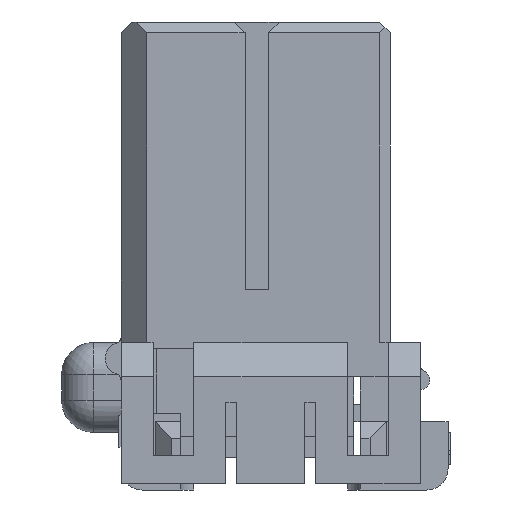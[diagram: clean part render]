
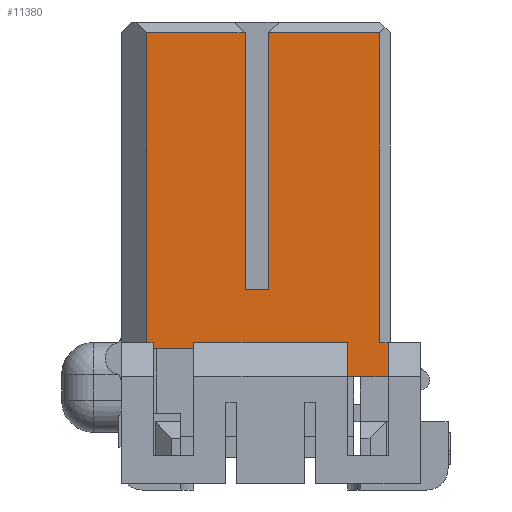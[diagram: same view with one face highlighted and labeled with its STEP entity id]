
A CAD part, left-side view. The second image highlights one B-rep face of the part: STEP entity #11380.
In plain terms, the highlighted planar face has unit normal (-1, 0, 0).
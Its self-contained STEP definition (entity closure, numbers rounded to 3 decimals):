
#2042=DIRECTION('',(0.,-1.,0.));
#2043=VECTOR('',#2042,4.6);
#2044=CARTESIAN_POINT('',(-11.25,5.1,-0.5));
#2045=LINE('',#2044,#2043);
#2046=DIRECTION('',(0.,0.,-1.));
#2047=VECTOR('',#2046,12.);
#2048=CARTESIAN_POINT('',(-11.25,0.5,-0.5));
#2049=LINE('',#2048,#2047);
#2050=DIRECTION('',(0.,-1.,0.));
#2051=VECTOR('',#2050,1.1);
#2052=CARTESIAN_POINT('',(-11.25,0.5,-12.5));
#2053=LINE('',#2052,#2051);
#2054=DIRECTION('',(0.,0.,-1.));
#2055=VECTOR('',#2054,12.);
#2056=CARTESIAN_POINT('',(-11.25,-0.6,-0.5));
#2057=LINE('',#2056,#2055);
#2058=DIRECTION('',(0.,-1.,0.));
#2059=VECTOR('',#2058,5.2);
#2060=CARTESIAN_POINT('',(-11.25,-0.6,-0.5));
#2061=LINE('',#2060,#2059);
#2062=DIRECTION('',(0.,0.,-1.));
#2063=VECTOR('',#2062,14.5);
#2064=CARTESIAN_POINT('',(-11.25,-5.8,-0.5));
#2065=LINE('',#2064,#2063);
#2066=DIRECTION('',(0.,-1.,0.));
#2067=VECTOR('',#2066,0.4);
#2068=CARTESIAN_POINT('',(-11.25,-5.8,-15.));
#2069=LINE('',#2068,#2067);
#2070=DIRECTION('',(0.,0.,1.));
#2071=VECTOR('',#2070,1.6);
#2072=CARTESIAN_POINT('',(-11.25,-6.2,-16.6));
#2073=LINE('',#2072,#2071);
#2074=DIRECTION('',(0.,0.,-1.));
#2075=VECTOR('',#2074,1.6);
#2076=CARTESIAN_POINT('',(-11.25,-4.3,-15.));
#2077=LINE('',#2076,#2075);
#2078=DIRECTION('',(0.,1.,0.));
#2079=VECTOR('',#2078,7.2);
#2080=CARTESIAN_POINT('',(-11.25,-4.3,-15.));
#2081=LINE('',#2080,#2079);
#2082=DIRECTION('',(0.,0.,1.));
#2083=VECTOR('',#2082,0.3);
#2084=CARTESIAN_POINT('',(-11.25,2.9,-15.3));
#2085=LINE('',#2084,#2083);
#2086=DIRECTION('',(0.,0.,-1.));
#2087=VECTOR('',#2086,0.3);
#2088=CARTESIAN_POINT('',(-11.25,4.8,-15.));
#2089=LINE('',#2088,#2087);
#2090=DIRECTION('',(0.,1.,0.));
#2091=VECTOR('',#2090,0.3);
#2092=CARTESIAN_POINT('',(-11.25,4.8,-15.));
#2093=LINE('',#2092,#2091);
#2094=DIRECTION('',(0.,0.,1.));
#2095=VECTOR('',#2094,14.5);
#2096=CARTESIAN_POINT('',(-11.25,5.1,-15.));
#2097=LINE('',#2096,#2095);
#2222=DIRECTION('',(0.,1.,0.));
#2223=VECTOR('',#2222,1.9);
#2224=CARTESIAN_POINT('',(-11.25,2.9,-15.3));
#2225=LINE('',#2224,#2223);
#5510=DIRECTION('',(0.,-1.,0.));
#5511=VECTOR('',#5510,1.9);
#5512=CARTESIAN_POINT('',(-11.25,-4.3,-16.6));
#5513=LINE('',#5512,#5511);
#6896=CARTESIAN_POINT('',(-11.25,0.5,-12.5));
#6897=CARTESIAN_POINT('',(-11.25,-0.6,-12.5));
#6898=VERTEX_POINT('',#6896);
#6899=VERTEX_POINT('',#6897);
#7260=CARTESIAN_POINT('',(-11.25,2.9,-15.));
#7261=VERTEX_POINT('',#7260);
#7262=CARTESIAN_POINT('',(-11.25,4.8,-15.));
#7263=VERTEX_POINT('',#7262);
#7264=CARTESIAN_POINT('',(-11.25,-4.3,-15.));
#7265=VERTEX_POINT('',#7264);
#7266=CARTESIAN_POINT('',(-11.25,2.9,-15.3));
#7267=VERTEX_POINT('',#7266);
#7268=CARTESIAN_POINT('',(-11.25,4.8,-15.3));
#7269=VERTEX_POINT('',#7268);
#7270=CARTESIAN_POINT('',(-11.25,-4.3,-16.6));
#7271=VERTEX_POINT('',#7270);
#7805=CARTESIAN_POINT('',(-11.25,5.1,-15.));
#7807=VERTEX_POINT('',#7805);
#7858=CARTESIAN_POINT('',(-11.25,-6.2,-16.6));
#7859=VERTEX_POINT('',#7858);
#8754=CARTESIAN_POINT('',(-11.25,5.1,-0.5));
#8756=VERTEX_POINT('',#8754);
#8760=CARTESIAN_POINT('',(-11.25,0.5,-0.5));
#8761=VERTEX_POINT('',#8760);
#8791=CARTESIAN_POINT('',(-11.25,-0.6,-0.5));
#8793=VERTEX_POINT('',#8791);
#8794=CARTESIAN_POINT('',(-11.25,-5.8,-0.5));
#8795=VERTEX_POINT('',#8794);
#8877=CARTESIAN_POINT('',(-11.25,-5.8,-15.));
#8879=VERTEX_POINT('',#8877);
#8886=CARTESIAN_POINT('',(-11.25,-6.2,-15.));
#8887=VERTEX_POINT('',#8886);
#11346=CARTESIAN_POINT('',(-11.25,6.3,0.));
#11347=DIRECTION('',(-1.,0.,0.));
#11348=DIRECTION('',(0.,-1.,0.));
#11349=AXIS2_PLACEMENT_3D('',#11346,#11347,#11348);
#11350=PLANE('',#11349);
#11352=ORIENTED_EDGE('',*,*,#11351,.T.);
#11354=ORIENTED_EDGE('',*,*,#11353,.T.);
#11356=ORIENTED_EDGE('',*,*,#11355,.T.);
#11358=ORIENTED_EDGE('',*,*,#11357,.F.);
#11360=ORIENTED_EDGE('',*,*,#11359,.T.);
#11362=ORIENTED_EDGE('',*,*,#11361,.T.);
#11363=ORIENTED_EDGE('',*,*,#11104,.T.);
#11365=ORIENTED_EDGE('',*,*,#11364,.F.);
#11367=ORIENTED_EDGE('',*,*,#11366,.F.);
#11369=ORIENTED_EDGE('',*,*,#11368,.F.);
#11370=ORIENTED_EDGE('',*,*,#11146,.T.);
#11371=ORIENTED_EDGE('',*,*,#11199,.F.);
#11373=ORIENTED_EDGE('',*,*,#11372,.T.);
#11374=ORIENTED_EDGE('',*,*,#11339,.F.);
#11375=ORIENTED_EDGE('',*,*,#11160,.T.);
#11377=ORIENTED_EDGE('',*,*,#11376,.T.);
#11378=EDGE_LOOP('',(#11352,#11354,#11356,#11358,#11360,#11362,#11363,#11365,
#11367,#11369,#11370,#11371,#11373,#11374,#11375,#11377));
#11379=FACE_OUTER_BOUND('',#11378,.F.);
#11380=ADVANCED_FACE('',(#11379),#11350,.T.);
#11104=EDGE_CURVE('',#8879,#8887,#2069,.T.);
#11146=EDGE_CURVE('',#7265,#7261,#2081,.T.);
#11160=EDGE_CURVE('',#7263,#7807,#2093,.T.);
#11199=EDGE_CURVE('',#7267,#7261,#2085,.T.);
#11339=EDGE_CURVE('',#7263,#7269,#2089,.T.);
#11351=EDGE_CURVE('',#8756,#8761,#2045,.T.);
#11353=EDGE_CURVE('',#8761,#6898,#2049,.T.);
#11355=EDGE_CURVE('',#6898,#6899,#2053,.T.);
#11357=EDGE_CURVE('',#8793,#6899,#2057,.T.);
#11359=EDGE_CURVE('',#8793,#8795,#2061,.T.);
#11361=EDGE_CURVE('',#8795,#8879,#2065,.T.);
#11364=EDGE_CURVE('',#7859,#8887,#2073,.T.);
#11366=EDGE_CURVE('',#7271,#7859,#5513,.T.);
#11368=EDGE_CURVE('',#7265,#7271,#2077,.T.);
#11372=EDGE_CURVE('',#7267,#7269,#2225,.T.);
#11376=EDGE_CURVE('',#7807,#8756,#2097,.T.);
